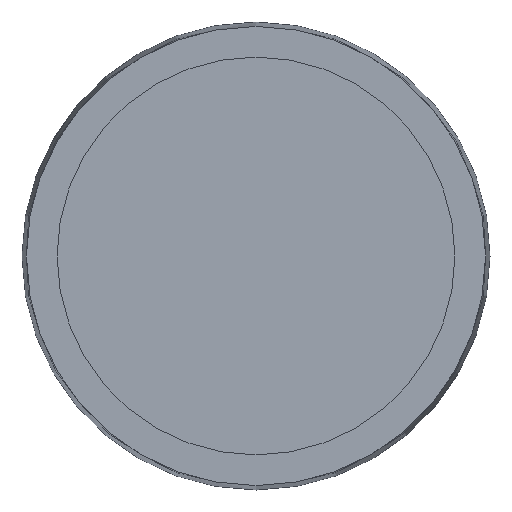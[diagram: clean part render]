
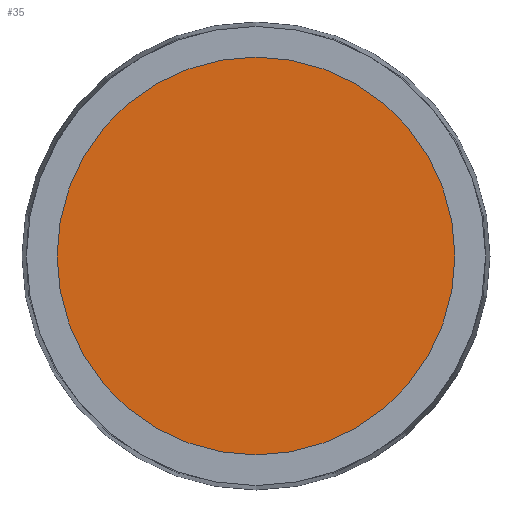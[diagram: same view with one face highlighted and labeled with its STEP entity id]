
A CAD part, front view. The second image highlights one B-rep face of the part: STEP entity #35.
In plain terms, the highlighted planar face has unit normal (0, -1, 0).
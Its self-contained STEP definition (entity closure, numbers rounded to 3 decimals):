
#15 = EDGE_LOOP ( 'NONE', ( #100, #27 ) ) ;
#27 = ORIENTED_EDGE ( 'NONE', *, *, #309, .T. ) ;
#35 = ADVANCED_FACE ( 'NONE', ( #222 ), #223, .T. ) ;
#50 = VERTEX_POINT ( 'NONE', #122 ) ;
#52 = EDGE_CURVE ( 'NONE', #50, #97, #127, .T. ) ;
#97 = VERTEX_POINT ( 'NONE', #167 ) ;
#100 = ORIENTED_EDGE ( 'NONE', *, *, #52, .T. ) ;
#122 = CARTESIAN_POINT ( 'NONE',  ( 0., 8., -3.4 ) ) ;
#127 = CIRCLE ( 'NONE', #128, 3.4 ) ;
#128 = AXIS2_PLACEMENT_3D ( 'NONE', #129, #130, #131 ) ;
#129 = CARTESIAN_POINT ( 'NONE',  ( 0., 8., 0. ) ) ;
#130 = DIRECTION ( 'NONE',  ( 0., -1., 0. ) ) ;
#131 = DIRECTION ( 'NONE',  ( 0., 0., -1. ) ) ;
#167 = CARTESIAN_POINT ( 'NONE',  ( 0., 8., 3.4 ) ) ;
#222 = FACE_OUTER_BOUND ( 'NONE', #15, .T. ) ;
#223 = PLANE ( 'NONE',  #226 ) ;
#226 = AXIS2_PLACEMENT_3D ( 'NONE', #227, #228, #229 ) ;
#227 = CARTESIAN_POINT ( 'NONE',  ( 0., 8., 0. ) ) ;
#228 = DIRECTION ( 'NONE',  ( 0., -1., 0. ) ) ;
#229 = DIRECTION ( 'NONE',  ( 0., 0., -1. ) ) ;
#234 = CIRCLE ( 'NONE', #235, 3.4 ) ;
#235 = AXIS2_PLACEMENT_3D ( 'NONE', #236, #237, #238 ) ;
#236 = CARTESIAN_POINT ( 'NONE',  ( 0., 8., 0. ) ) ;
#237 = DIRECTION ( 'NONE',  ( 0., -1., 0. ) ) ;
#238 = DIRECTION ( 'NONE',  ( 0., 0., -1. ) ) ;
#309 = EDGE_CURVE ( 'NONE', #97, #50, #234, .T. ) ;
